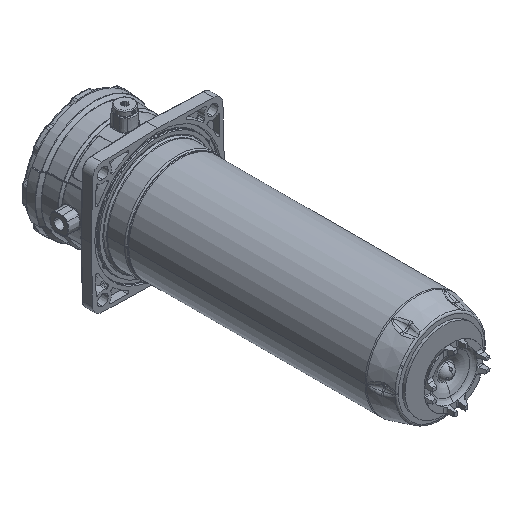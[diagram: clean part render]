
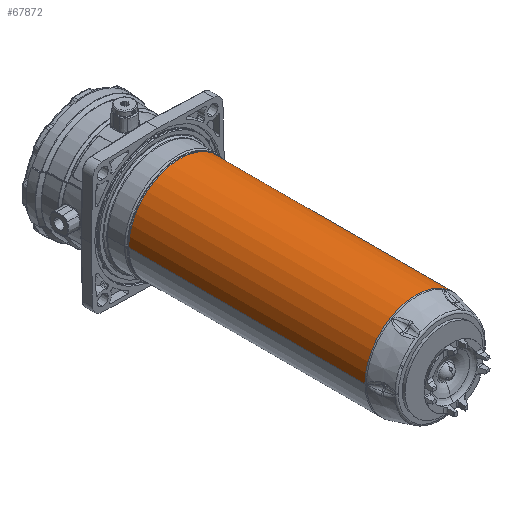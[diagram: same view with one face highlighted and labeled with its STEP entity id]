
A CAD part, isometric view. The second image highlights one B-rep face of the part: STEP entity #67872.
In plain terms, the highlighted cylindrical face has radius 54.5 mm (diameter 109 mm), a partial arc.
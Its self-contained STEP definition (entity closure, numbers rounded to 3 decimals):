
#28456=DIRECTION('',(0.,-1.,0.));
#28457=VECTOR('',#28456,251.116);
#28458=CARTESIAN_POINT('',(54.5,-35.036,
0.));
#28459=LINE('',#28458,#28457);
#28463=DIRECTION('',(0.,-1.,
0.));
#28464=VECTOR('',#28463,251.116);
#28465=CARTESIAN_POINT('',(-54.5,-35.036,
0.004));
#28466=LINE('',#28465,#28464);
#28941=CARTESIAN_POINT('',(-54.5,-286.152,
0.003));
#28951=CARTESIAN_POINT('',(0.,-286.152,
0.));
#28952=DIRECTION('',(0.,1.,0.));
#28953=DIRECTION('',(-1.,0.,0.));
#28954=AXIS2_PLACEMENT_3D('',#28951,#28952,#28953);
#28967=CARTESIAN_POINT('',(0.,-35.036,
0.));
#28968=DIRECTION('',(0.,-1.,0.));
#28969=DIRECTION('',(1.,0.,0.));
#28970=AXIS2_PLACEMENT_3D('',#28967,#28968,#28969);
#28981=CARTESIAN_POINT('',(-54.5,-35.036,
0.004));
#35348=CARTESIAN_POINT('',(54.5,-286.152,
0.));
#35350=VERTEX_POINT('',#35348);
#35352=VERTEX_POINT('',#28941);
#35377=CARTESIAN_POINT('',(54.5,-35.036,
0.));
#35379=VERTEX_POINT('',#35377);
#35381=VERTEX_POINT('',#28981);
#67860=CARTESIAN_POINT('',(0.,-160.748,
0.));
#67861=DIRECTION('',(0.,-1.,0.));
#67862=DIRECTION('',(1.,0.,0.));
#67863=AXIS2_PLACEMENT_3D('',#67860,#67861,#67862);
#67864=CYLINDRICAL_SURFACE('',#67863,54.5);
#67865=ORIENTED_EDGE('',*,*,#67854,.F.);
#67866=ORIENTED_EDGE('',*,*,#67726,.F.);
#67868=ORIENTED_EDGE('',*,*,#67867,.F.);
#67869=ORIENTED_EDGE('',*,*,#67723,.T.);
#67870=EDGE_LOOP('',(#67865,#67866,#67868,#67869));
#67871=FACE_OUTER_BOUND('',#67870,.F.);
#28955=CIRCLE('',#28954,54.5);
#28971=CIRCLE('',#28970,54.5);
#67723=EDGE_CURVE('',#35379,#35350,#28459,.T.);
#67726=EDGE_CURVE('',#35381,#35352,#28466,.T.);
#67854=EDGE_CURVE('',#35352,#35350,#28955,.T.);
#67867=EDGE_CURVE('',#35379,#35381,#28971,.T.);
#67872=ADVANCED_FACE('',(#67871),#67864,.T.);
